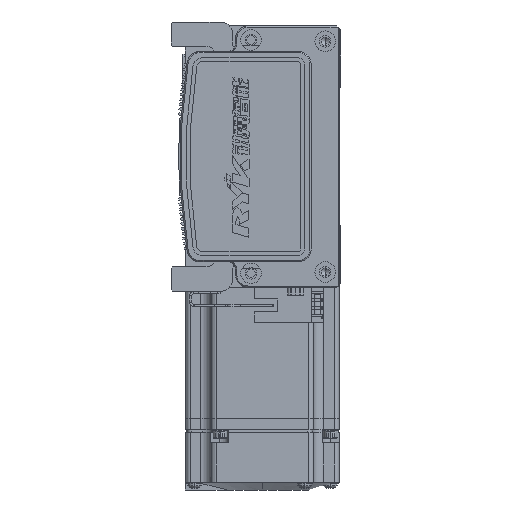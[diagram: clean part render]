
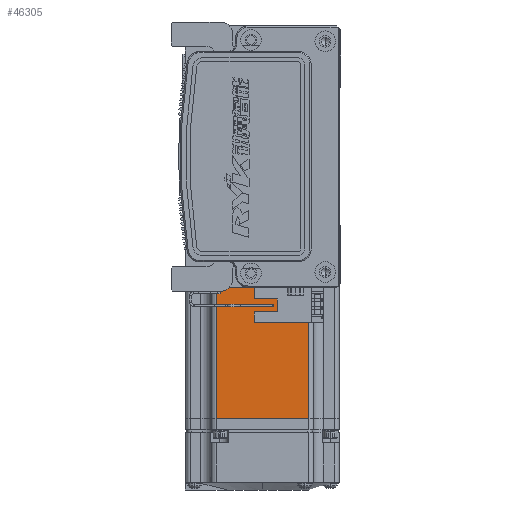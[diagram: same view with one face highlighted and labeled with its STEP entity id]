
A CAD part, left-side view. The second image highlights one B-rep face of the part: STEP entity #46305.
In plain terms, the highlighted planar face has unit normal (-1, 0, 0) as drawn and (0, 0, 1) by its records, which use the part's own axes.
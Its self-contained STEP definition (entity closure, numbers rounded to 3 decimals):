
#2966 = DIRECTION ( 'NONE',  ( 1., 0., 0. ) ) ;
#3438 = DIRECTION ( 'NONE',  ( 0., 0., 1. ) ) ;
#5200 = ORIENTED_EDGE ( 'NONE', *, *, #39114, .F. ) ;
#7990 = CARTESIAN_POINT ( 'NONE',  ( -7.75, -18., 30. ) ) ;
#8644 = VERTEX_POINT ( 'NONE', #42621 ) ;
#12546 = ORIENTED_EDGE ( 'NONE', *, *, #52074, .F. ) ;
#14798 = VERTEX_POINT ( 'NONE', #31573 ) ;
#15688 = VECTOR ( 'NONE', #48268, 1000. ) ;
#17827 = PLANE ( 'NONE',  #32686 ) ;
#18665 = EDGE_CURVE ( 'NONE', #51587, #14798, #41857, .T. ) ;
#21161 = VECTOR ( 'NONE', #40641, 1000. ) ;
#23287 = FACE_OUTER_BOUND ( 'NONE', #31439, .T. ) ;
#27026 = ORIENTED_EDGE ( 'NONE', *, *, #62335, .T. ) ;
#28762 = LINE ( 'NONE', #51041, #40564 ) ;
#29815 = CARTESIAN_POINT ( 'NONE',  ( -6.5, -18., 30. ) ) ;
#31439 = EDGE_LOOP ( 'NONE', ( #12546, #27026, #35957, #5200 ) ) ;
#31573 = CARTESIAN_POINT ( 'NONE',  ( -70.95, -18., 30. ) ) ;
#32686 = AXIS2_PLACEMENT_3D ( 'NONE', #57724, #3438, #2966 ) ;
#33833 = LINE ( 'NONE', #29815, #21161 ) ;
#35494 = CARTESIAN_POINT ( 'NONE',  ( -7.75, 0., 30. ) ) ;
#35957 = ORIENTED_EDGE ( 'NONE', *, *, #18665, .T. ) ;
#36889 = DIRECTION ( 'NONE',  ( 0., -1., 0. ) ) ;
#38086 = CARTESIAN_POINT ( 'NONE',  ( -70.95, 0., 30. ) ) ;
#39114 = EDGE_CURVE ( 'NONE', #45810, #14798, #33833, .T. ) ;
#40564 = VECTOR ( 'NONE', #51509, 1000. ) ;
#40641 = DIRECTION ( 'NONE',  ( -1., 0., 0. ) ) ;
#41857 = LINE ( 'NONE', #38086, #15688 ) ;
#42621 = CARTESIAN_POINT ( 'NONE',  ( -7.75, 18., 30. ) ) ;
#42800 = LINE ( 'NONE', #35494, #45394 ) ;
#45394 = VECTOR ( 'NONE', #36889, 1000. ) ;
#45810 = VERTEX_POINT ( 'NONE', #7990 ) ;
#46305 = ADVANCED_FACE ( 'NONE', ( #23287 ), #17827, .T. ) ;
#48268 = DIRECTION ( 'NONE',  ( 0., -1., 0. ) ) ;
#51041 = CARTESIAN_POINT ( 'NONE',  ( -6.5, 18., 30. ) ) ;
#51509 = DIRECTION ( 'NONE',  ( -1., 0., 0. ) ) ;
#51587 = VERTEX_POINT ( 'NONE', #59681 ) ;
#52074 = EDGE_CURVE ( 'NONE', #8644, #45810, #42800, .T. ) ;
#57724 = CARTESIAN_POINT ( 'NONE',  ( -6.5, -25., 30. ) ) ;
#59681 = CARTESIAN_POINT ( 'NONE',  ( -70.95, 18., 30. ) ) ;
#62335 = EDGE_CURVE ( 'NONE', #8644, #51587, #28762, .T. ) ;
